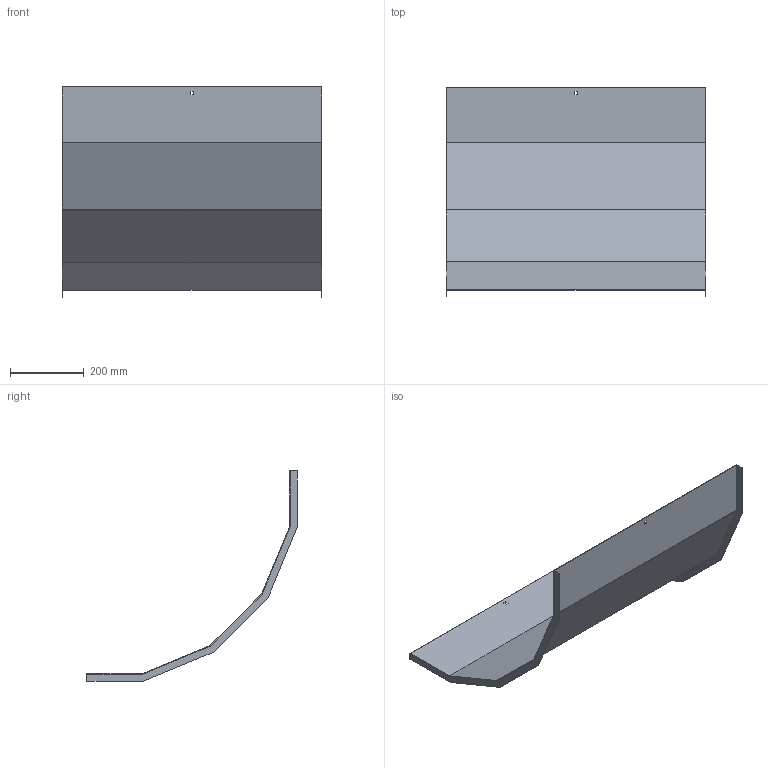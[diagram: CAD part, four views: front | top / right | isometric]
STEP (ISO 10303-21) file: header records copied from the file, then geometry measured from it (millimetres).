
FILE_DESCRIPTION (( 'STEP AP214' ), '1' );
FILE_NAME ('B2X30N5R700X.step', '2025-03-20T09:47:45', ( '' ), ( '' ), 'SwSTEP 2.0', 'SolidWorks 2023', '' );
FILE_SCHEMA (( 'AUTOMOTIVE_DESIGN' ));
Length unit declared in the file: millimetre
Products named in the file (1): B2X30N5R700X
Bounding box: 703 x 569.92 x 569.92 mm (x, y, z)
Volume: 996259.4 mm3; surface area: 1333437.9 mm2
Topology: 1 solids, 1 shells, 34 faces, 96 edges, 64 vertices
Faces by surface type: plane 34
Entity records: 1111 total; most frequent: CARTESIAN_POINT 195, ORIENTED_EDGE 192, DIRECTION 166, VECTOR 96, EDGE_CURVE 96, LINE 96, VERTEX_POINT 64, EDGE_LOOP 38
